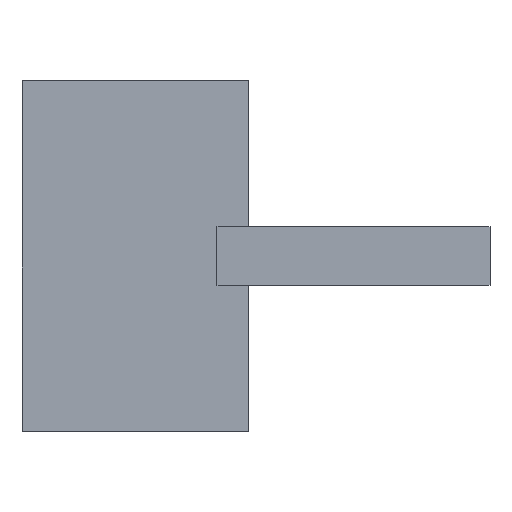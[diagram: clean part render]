
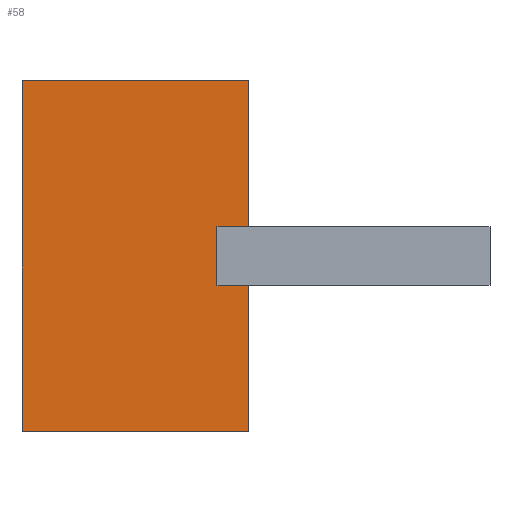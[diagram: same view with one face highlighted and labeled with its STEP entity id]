
A CAD part, top view. The second image highlights one B-rep face of the part: STEP entity #58.
In plain terms, the highlighted planar face has unit normal (0, 0, 1).
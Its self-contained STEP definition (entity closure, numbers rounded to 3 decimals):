
#58=ADVANCED_FACE('',(#166),#168,.T.);
#166=FACE_BOUND('',#167,.T.);
#167=EDGE_LOOP('',(#250,#251,#252,#253,#254,#255,#256,#257));
#168=PLANE('',#169);
#169=AXIS2_PLACEMENT_3D('',#170,#171,#172);
#170=CARTESIAN_POINT('',(0.,0.,1.));
#171=DIRECTION('',(0.,0.,1.));
#172=DIRECTION('',(-1.,0.,0.));
#250=ORIENTED_EDGE('',*,*,#306,.F.);
#251=ORIENTED_EDGE('',*,*,#307,.F.);
#252=ORIENTED_EDGE('',*,*,#308,.F.);
#253=ORIENTED_EDGE('',*,*,#309,.T.);
#254=ORIENTED_EDGE('',*,*,#310,.T.);
#255=ORIENTED_EDGE('',*,*,#311,.T.);
#256=ORIENTED_EDGE('',*,*,#312,.T.);
#257=ORIENTED_EDGE('',*,*,#313,.T.);
#306=EDGE_CURVE('',#334,#335,#336,.T.);
#307=EDGE_CURVE('',#337,#334,#338,.T.);
#308=EDGE_CURVE('',#339,#337,#340,.T.);
#309=EDGE_CURVE('',#339,#341,#342,.T.);
#310=EDGE_CURVE('',#341,#343,#344,.T.);
#311=EDGE_CURVE('',#343,#345,#346,.T.);
#312=EDGE_CURVE('',#345,#347,#348,.T.);
#313=EDGE_CURVE('',#347,#335,#349,.T.);
#334=VERTEX_POINT('',#380);
#335=VERTEX_POINT('',#381);
#336=LINE('',#382,#383);
#337=VERTEX_POINT('',#385);
#338=LINE('',#386,#387);
#339=VERTEX_POINT('',#389);
#340=LINE('',#390,#391);
#341=VERTEX_POINT('',#393);
#342=LINE('',#394,#395);
#343=VERTEX_POINT('',#397);
#344=LINE('',#398,#399);
#345=VERTEX_POINT('',#401);
#346=LINE('',#402,#403);
#347=VERTEX_POINT('',#405);
#348=LINE('',#406,#407);
#349=LINE('',#409,#410);
#380=CARTESIAN_POINT('',(2.1,-0.75,1.));
#381=CARTESIAN_POINT('',(2.9,-0.75,1.));
#382=CARTESIAN_POINT('',(2.1,-0.75,1.));
#383=VECTOR('',#384,1.);
#384=DIRECTION('',(1.,0.,0.));
#385=CARTESIAN_POINT('',(2.1,0.75,1.));
#386=CARTESIAN_POINT('',(2.1,0.75,1.));
#387=VECTOR('',#388,1.);
#388=DIRECTION('',(0.,-1.,0.));
#389=CARTESIAN_POINT('',(2.9,0.75,1.));
#390=CARTESIAN_POINT('',(2.9,0.75,1.));
#391=VECTOR('',#392,1.);
#392=DIRECTION('',(-1.,0.,0.));
#393=CARTESIAN_POINT('',(2.9,4.5,1.));
#394=CARTESIAN_POINT('',(2.9,0.75,1.));
#395=VECTOR('',#396,1.);
#396=DIRECTION('',(0.,1.,0.));
#397=CARTESIAN_POINT('',(-2.9,4.5,1.));
#398=CARTESIAN_POINT('',(2.9,4.5,1.));
#399=VECTOR('',#400,1.);
#400=DIRECTION('',(-1.,0.,0.));
#401=CARTESIAN_POINT('',(-2.9,-4.5,1.));
#402=CARTESIAN_POINT('',(-2.9,4.5,1.));
#403=VECTOR('',#404,1.);
#404=DIRECTION('',(0.,-1.,0.));
#405=CARTESIAN_POINT('',(2.9,-4.5,1.));
#406=CARTESIAN_POINT('',(-2.9,-4.5,1.));
#407=VECTOR('',#408,1.);
#408=DIRECTION('',(1.,0.,0.));
#409=CARTESIAN_POINT('',(2.9,-4.5,1.));
#410=VECTOR('',#411,1.);
#411=DIRECTION('',(0.,1.,0.));
